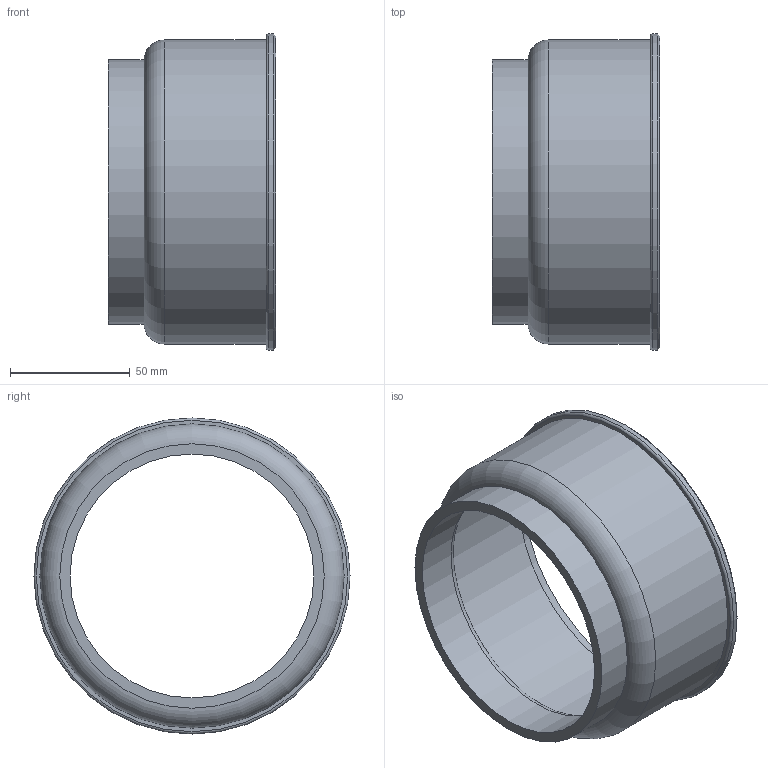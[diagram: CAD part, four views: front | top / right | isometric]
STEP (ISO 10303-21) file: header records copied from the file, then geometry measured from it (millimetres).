
FILE_DESCRIPTION(/* description */ (''),/* implementation_level */ '2;1');
FILE_NAME(/* name */ 'Z:\Geberit\Export\NewStep\367898.stp',/* time_stamp */ '2014-04-02T07:59:06+02:00',/* author */ ('nelson'),/* organization */ (''),/* preprocessor_version */ 'ST-DEVELOPER v15.2',/* originating_system */ 'Autodesk Inventor 2014',/* authorisation */ '');
FILE_SCHEMA (('AUTOMOTIVE_DESIGN { 1 0 10303 214 3 1 1 }'));
Length unit declared in the file: millimetre
Products named in the file (1): 367898
Bounding box: 70 x 132 x 132 mm (x, y, z)
Volume: 107477 mm3; surface area: 60091.4 mm2
Topology: 1 solids, 1 shells, 15 faces, 26 edges, 15 vertices
Faces by surface type: cylinder 5, torus 4, plane 4, cone 2
Full cylindrical faces by diameter (mm): 101.8 x1, 110.4 x1, 120.3 x1, 127 x1, 132 x1
Entity records: 329 total; most frequent: DIRECTION 62, CARTESIAN_POINT 46, AXIS2_PLACEMENT_3D 31, EDGE_LOOP 30, ORIENTED_EDGE 30, FACE_BOUND 17, CIRCLE 15, VERTEX_POINT 15
